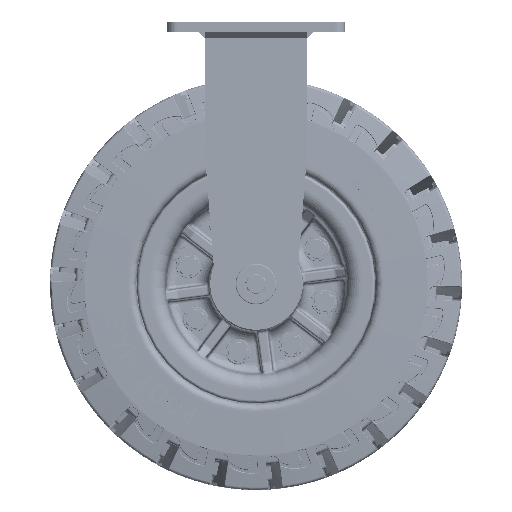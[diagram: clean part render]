
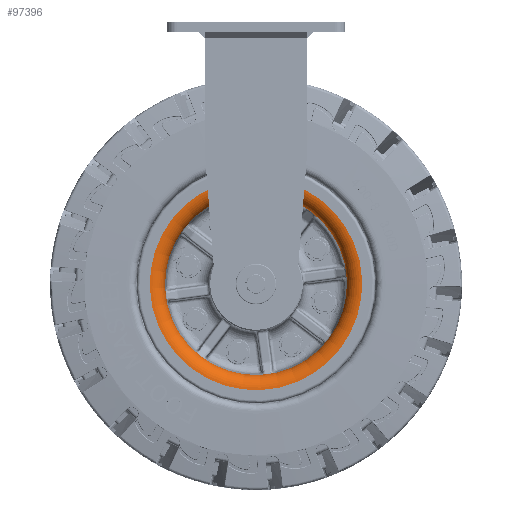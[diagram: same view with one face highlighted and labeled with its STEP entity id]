
A CAD part, front view. The second image highlights one B-rep face of the part: STEP entity #97396.
In plain terms, the highlighted toroidal (fillet/blend) face has major radius 104.361 mm and minor radius 15 mm.
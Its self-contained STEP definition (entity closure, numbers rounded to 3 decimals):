
#3494=TOROIDAL_SURFACE('',#104033,104.361,15.);
#14144=FACE_OUTER_BOUND('',#20112,.T.);
#20112=EDGE_LOOP('',(#65170,#65171,#65172,#65173,#65174,#65175,#65176));
#33626=CIRCLE('',#104013,89.418);
#33627=CIRCLE('',#104014,89.418);
#33628=CIRCLE('',#104015,89.418);
#33639=CIRCLE('',#104031,104.361);
#33640=CIRCLE('',#104032,104.361);
#33641=CIRCLE('',#104034,15.);
#38396=VERTEX_POINT('',#142751);
#38397=VERTEX_POINT('',#142752);
#38398=VERTEX_POINT('',#142755);
#38408=VERTEX_POINT('',#142785);
#38409=VERTEX_POINT('',#142786);
#48328=EDGE_CURVE('',#38396,#38397,#33626,.T.);
#48330=EDGE_CURVE('',#38397,#38398,#33627,.T.);
#48331=EDGE_CURVE('',#38398,#38396,#33628,.T.);
#48345=EDGE_CURVE('',#38408,#38409,#33639,.T.);
#48346=EDGE_CURVE('',#38409,#38408,#33640,.T.);
#48347=EDGE_CURVE('',#38398,#38409,#33641,.T.);
#65170=ORIENTED_EDGE('',*,*,#48328,.F.);
#65171=ORIENTED_EDGE('',*,*,#48331,.F.);
#65172=ORIENTED_EDGE('',*,*,#48347,.T.);
#65173=ORIENTED_EDGE('',*,*,#48346,.T.);
#65174=ORIENTED_EDGE('',*,*,#48345,.T.);
#65175=ORIENTED_EDGE('',*,*,#48347,.F.);
#65176=ORIENTED_EDGE('',*,*,#48330,.F.);
#97396=ADVANCED_FACE('',(#14144),#3494,.T.);
#104013=AXIS2_PLACEMENT_3D('',#142753,#112134,#112135);
#104014=AXIS2_PLACEMENT_3D('',#142756,#112137,#112138);
#104015=AXIS2_PLACEMENT_3D('',#142757,#112139,#112140);
#104031=AXIS2_PLACEMENT_3D('',#142787,#112174,#112175);
#104032=AXIS2_PLACEMENT_3D('',#142788,#112176,#112177);
#104033=AXIS2_PLACEMENT_3D('',#142789,#112178,#112179);
#104034=AXIS2_PLACEMENT_3D('',#142790,#112180,#112181);
#112134=DIRECTION('center_axis',(0.,-1.,0.));
#112135=DIRECTION('ref_axis',(-0.793,0.,0.609));
#112137=DIRECTION('center_axis',(0.,-1.,0.));
#112138=DIRECTION('ref_axis',(-0.793,0.,0.609));
#112139=DIRECTION('center_axis',(0.,-1.,0.));
#112140=DIRECTION('ref_axis',(-0.793,0.,0.609));
#112174=DIRECTION('center_axis',(0.,-1.,0.));
#112175=DIRECTION('ref_axis',(-0.793,0.,0.609));
#112176=DIRECTION('center_axis',(0.,-1.,0.));
#112177=DIRECTION('ref_axis',(-0.793,0.,0.609));
#112178=DIRECTION('center_axis',(0.,-1.,0.));
#112179=DIRECTION('ref_axis',(-0.793,0.,0.609));
#112180=DIRECTION('center_axis',(0.609,0.,
0.793));
#112181=DIRECTION('ref_axis',(0.793,0.,-0.609));
#142751=CARTESIAN_POINT('',(54.434,-41.307,-176.56));
#142752=CARTESIAN_POINT('',(-54.434,-41.307,-318.44));
#142753=CARTESIAN_POINT('Origin',(0.,-41.307,
-247.5));
#142755=CARTESIAN_POINT('',(70.94,-41.307,-301.934));
#142756=CARTESIAN_POINT('Origin',(0.,-41.307,
-247.5));
#142757=CARTESIAN_POINT('Origin',(0.,-41.307,
-247.5));
#142785=CARTESIAN_POINT('',(63.531,-55.,-164.705));
#142786=CARTESIAN_POINT('',(82.795,-55.,-311.031));
#142787=CARTESIAN_POINT('Origin',(0.,-55.,
-247.5));
#142788=CARTESIAN_POINT('Origin',(0.,-55.,
-247.5));
#142789=CARTESIAN_POINT('Origin',(0.,-40.,
-247.5));
#142790=CARTESIAN_POINT('Origin',(82.795,-40.,-311.031));
